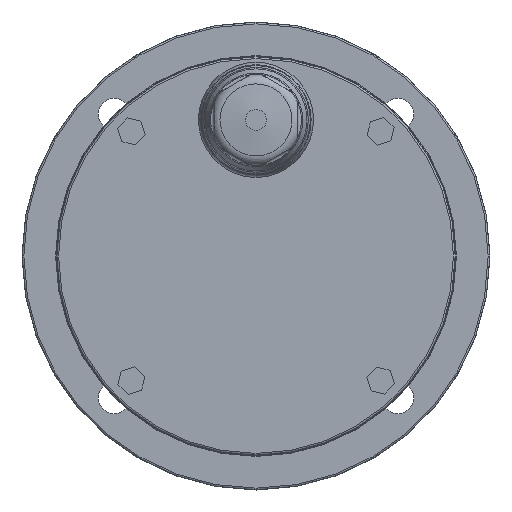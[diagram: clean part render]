
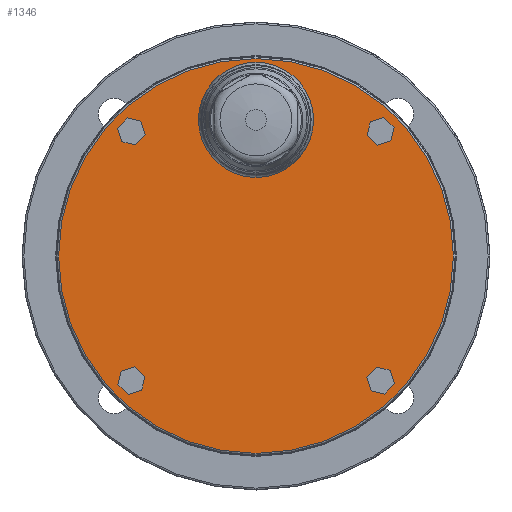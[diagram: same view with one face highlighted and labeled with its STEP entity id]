
A CAD part, front view. The second image highlights one B-rep face of the part: STEP entity #1346.
In plain terms, the highlighted planar face has unit normal (0, -1, 0).
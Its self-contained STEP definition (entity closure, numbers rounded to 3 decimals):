
#151=CARTESIAN_POINT('',(10.0,41.059,39.0));
#152=VERTEX_POINT('',#151);
#153=CARTESIAN_POINT('',(0.0,41.059,39.0));
#154=DIRECTION('',(0.0,1.0,0.0));
#155=DIRECTION('',(1.0,0.0,0.0));
#156=AXIS2_PLACEMENT_3D('',#153,#154,#155);
#157=CIRCLE('',#156,10.0);
#158=EDGE_CURVE('',#152,#152,#157,.T.);
#198=CARTESIAN_POINT('',(36.91,41.059,-39.568));
#199=VERTEX_POINT('',#198);
#206=CARTESIAN_POINT('',(39.651,41.059,-36.598));
#207=VERTEX_POINT('',#206);
#208=CARTESIAN_POINT('',(39.651,41.059,-36.598));
#209=DIRECTION('',(-0.678,0.0,-0.735));
#210=VECTOR('',#209,4.041);
#211=LINE('',#208,#210);
#212=EDGE_CURVE('',#207,#199,#211,.T.);
#236=CARTESIAN_POINT('',(32.968,41.059,-38.679));
#237=VERTEX_POINT('',#236);
#244=CARTESIAN_POINT('',(36.91,41.059,-39.568));
#245=DIRECTION('',(-0.976,0.0,0.22));
#246=VECTOR('',#245,4.041);
#247=LINE('',#244,#246);
#248=EDGE_CURVE('',#199,#237,#247,.T.);
#267=CARTESIAN_POINT('',(31.766,41.059,-34.82));
#268=VERTEX_POINT('',#267);
#275=CARTESIAN_POINT('',(32.968,41.059,-38.679));
#276=DIRECTION('',(-0.297,0.0,0.955));
#277=VECTOR('',#276,4.041);
#278=LINE('',#275,#277);
#279=EDGE_CURVE('',#237,#268,#278,.T.);
#298=CARTESIAN_POINT('',(34.508,41.059,-31.85));
#299=VERTEX_POINT('',#298);
#306=CARTESIAN_POINT('',(31.766,41.059,-34.82));
#307=DIRECTION('',(0.678,0.0,0.735));
#308=VECTOR('',#307,4.041);
#309=LINE('',#306,#308);
#310=EDGE_CURVE('',#268,#299,#309,.T.);
#329=CARTESIAN_POINT('',(38.45,41.059,-32.739));
#330=VERTEX_POINT('',#329);
#337=CARTESIAN_POINT('',(34.508,41.059,-31.85));
#338=DIRECTION('',(0.976,0.0,-0.22));
#339=VECTOR('',#338,4.041);
#340=LINE('',#337,#339);
#341=EDGE_CURVE('',#299,#330,#340,.T.);
#359=CARTESIAN_POINT('',(38.45,41.059,-32.739));
#360=DIRECTION('',(0.297,0.0,-0.955));
#361=VECTOR('',#360,4.041);
#362=LINE('',#359,#361);
#363=EDGE_CURVE('',#330,#207,#362,.T.);
#398=CARTESIAN_POINT('',(-39.568,41.059,-36.91));
#399=VERTEX_POINT('',#398);
#406=CARTESIAN_POINT('',(-36.598,41.059,-39.651));
#407=VERTEX_POINT('',#406);
#408=CARTESIAN_POINT('',(-36.598,41.059,-39.651));
#409=DIRECTION('',(-0.735,0.0,0.678));
#410=VECTOR('',#409,4.041);
#411=LINE('',#408,#410);
#412=EDGE_CURVE('',#407,#399,#411,.T.);
#436=CARTESIAN_POINT('',(-38.679,41.059,-32.968));
#437=VERTEX_POINT('',#436);
#444=CARTESIAN_POINT('',(-39.568,41.059,-36.91));
#445=DIRECTION('',(0.22,0.0,0.976));
#446=VECTOR('',#445,4.041);
#447=LINE('',#444,#446);
#448=EDGE_CURVE('',#399,#437,#447,.T.);
#467=CARTESIAN_POINT('',(-34.82,41.059,-31.766));
#468=VERTEX_POINT('',#467);
#475=CARTESIAN_POINT('',(-38.679,41.059,-32.968));
#476=DIRECTION('',(0.955,0.0,0.297));
#477=VECTOR('',#476,4.041);
#478=LINE('',#475,#477);
#479=EDGE_CURVE('',#437,#468,#478,.T.);
#498=CARTESIAN_POINT('',(-31.85,41.059,-34.508));
#499=VERTEX_POINT('',#498);
#506=CARTESIAN_POINT('',(-34.82,41.059,-31.766));
#507=DIRECTION('',(0.735,0.0,-0.678));
#508=VECTOR('',#507,4.041);
#509=LINE('',#506,#508);
#510=EDGE_CURVE('',#468,#499,#509,.T.);
#529=CARTESIAN_POINT('',(-32.739,41.059,-38.45));
#530=VERTEX_POINT('',#529);
#537=CARTESIAN_POINT('',(-31.85,41.059,-34.508));
#538=DIRECTION('',(-0.22,0.0,-0.976));
#539=VECTOR('',#538,4.041);
#540=LINE('',#537,#539);
#541=EDGE_CURVE('',#499,#530,#540,.T.);
#559=CARTESIAN_POINT('',(-32.739,41.059,-38.45));
#560=DIRECTION('',(-0.955,0.0,-0.297));
#561=VECTOR('',#560,4.041);
#562=LINE('',#559,#561);
#563=EDGE_CURVE('',#530,#407,#562,.T.);
#598=CARTESIAN_POINT('',(-36.91,41.059,39.568));
#599=VERTEX_POINT('',#598);
#606=CARTESIAN_POINT('',(-39.651,41.059,36.598));
#607=VERTEX_POINT('',#606);
#608=CARTESIAN_POINT('',(-39.651,41.059,36.598));
#609=DIRECTION('',(0.678,0.0,0.735));
#610=VECTOR('',#609,4.041);
#611=LINE('',#608,#610);
#612=EDGE_CURVE('',#607,#599,#611,.T.);
#636=CARTESIAN_POINT('',(-32.968,41.059,38.679));
#637=VERTEX_POINT('',#636);
#644=CARTESIAN_POINT('',(-36.91,41.059,39.568));
#645=DIRECTION('',(0.976,0.0,-0.22));
#646=VECTOR('',#645,4.041);
#647=LINE('',#644,#646);
#648=EDGE_CURVE('',#599,#637,#647,.T.);
#667=CARTESIAN_POINT('',(-31.766,41.059,34.82));
#668=VERTEX_POINT('',#667);
#675=CARTESIAN_POINT('',(-32.968,41.059,38.679));
#676=DIRECTION('',(0.297,0.0,-0.955));
#677=VECTOR('',#676,4.041);
#678=LINE('',#675,#677);
#679=EDGE_CURVE('',#637,#668,#678,.T.);
#698=CARTESIAN_POINT('',(-34.508,41.059,31.85));
#699=VERTEX_POINT('',#698);
#706=CARTESIAN_POINT('',(-31.766,41.059,34.82));
#707=DIRECTION('',(-0.678,0.0,-0.735));
#708=VECTOR('',#707,4.041);
#709=LINE('',#706,#708);
#710=EDGE_CURVE('',#668,#699,#709,.T.);
#729=CARTESIAN_POINT('',(-38.45,41.059,32.739));
#730=VERTEX_POINT('',#729);
#737=CARTESIAN_POINT('',(-34.508,41.059,31.85));
#738=DIRECTION('',(-0.976,0.0,0.22));
#739=VECTOR('',#738,4.041);
#740=LINE('',#737,#739);
#741=EDGE_CURVE('',#699,#730,#740,.T.);
#759=CARTESIAN_POINT('',(-38.45,41.059,32.739));
#760=DIRECTION('',(-0.297,0.0,0.955));
#761=VECTOR('',#760,4.041);
#762=LINE('',#759,#761);
#763=EDGE_CURVE('',#730,#607,#762,.T.);
#798=CARTESIAN_POINT('',(39.568,41.059,36.91));
#799=VERTEX_POINT('',#798);
#806=CARTESIAN_POINT('',(36.598,41.059,39.651));
#807=VERTEX_POINT('',#806);
#808=CARTESIAN_POINT('',(36.598,41.059,39.651));
#809=DIRECTION('',(0.735,0.0,-0.678));
#810=VECTOR('',#809,4.041);
#811=LINE('',#808,#810);
#812=EDGE_CURVE('',#807,#799,#811,.T.);
#836=CARTESIAN_POINT('',(38.679,41.059,32.968));
#837=VERTEX_POINT('',#836);
#844=CARTESIAN_POINT('',(39.568,41.059,36.91));
#845=DIRECTION('',(-0.22,0.0,-0.976));
#846=VECTOR('',#845,4.041);
#847=LINE('',#844,#846);
#848=EDGE_CURVE('',#799,#837,#847,.T.);
#867=CARTESIAN_POINT('',(34.82,41.059,31.766));
#868=VERTEX_POINT('',#867);
#875=CARTESIAN_POINT('',(38.679,41.059,32.968));
#876=DIRECTION('',(-0.955,0.0,-0.297));
#877=VECTOR('',#876,4.041);
#878=LINE('',#875,#877);
#879=EDGE_CURVE('',#837,#868,#878,.T.);
#898=CARTESIAN_POINT('',(31.85,41.059,34.508));
#899=VERTEX_POINT('',#898);
#906=CARTESIAN_POINT('',(34.82,41.059,31.766));
#907=DIRECTION('',(-0.735,0.0,0.678));
#908=VECTOR('',#907,4.041);
#909=LINE('',#906,#908);
#910=EDGE_CURVE('',#868,#899,#909,.T.);
#929=CARTESIAN_POINT('',(32.739,41.059,38.45));
#930=VERTEX_POINT('',#929);
#937=CARTESIAN_POINT('',(31.85,41.059,34.508));
#938=DIRECTION('',(0.22,0.0,0.976));
#939=VECTOR('',#938,4.041);
#940=LINE('',#937,#939);
#941=EDGE_CURVE('',#899,#930,#940,.T.);
#959=CARTESIAN_POINT('',(32.739,41.059,38.45));
#960=DIRECTION('',(0.955,0.0,0.297));
#961=VECTOR('',#960,4.041);
#962=LINE('',#959,#961);
#963=EDGE_CURVE('',#930,#807,#962,.T.);
#1288=CARTESIAN_POINT('',(56.55,41.059,0.0));
#1289=VERTEX_POINT('',#1288);
#1290=CARTESIAN_POINT('',(0.0,41.059,0.0));
#1291=DIRECTION('',(0.0,-1.0,0.0));
#1292=DIRECTION('',(1.0,0.0,0.0));
#1293=AXIS2_PLACEMENT_3D('',#1290,#1291,#1292);
#1294=CIRCLE('',#1293,56.55);
#1295=EDGE_CURVE('',#1289,#1289,#1294,.T.);
#1303=CARTESIAN_POINT('',(28.275,41.059,0.0));
#1304=DIRECTION('',(0.0,-1.0,0.0));
#1305=DIRECTION('',(0.0,0.0,-1.0));
#1306=AXIS2_PLACEMENT_3D('',#1303,#1304,#1305);
#1307=PLANE('',#1306);
#1308=ORIENTED_EDGE('',*,*,#1295,.T.);
#1309=EDGE_LOOP('',(#1308));
#1310=FACE_OUTER_BOUND('',#1309,.T.);
#1311=ORIENTED_EDGE('',*,*,#158,.T.);
#1312=EDGE_LOOP('',(#1311));
#1313=FACE_BOUND('',#1312,.T.);
#1314=ORIENTED_EDGE('',*,*,#212,.T.);
#1315=ORIENTED_EDGE('',*,*,#248,.T.);
#1316=ORIENTED_EDGE('',*,*,#279,.T.);
#1317=ORIENTED_EDGE('',*,*,#310,.T.);
#1318=ORIENTED_EDGE('',*,*,#341,.T.);
#1319=ORIENTED_EDGE('',*,*,#363,.T.);
#1320=EDGE_LOOP('',(#1314,#1315,#1316,#1317,#1318,#1319));
#1321=FACE_BOUND('',#1320,.T.);
#1322=ORIENTED_EDGE('',*,*,#412,.T.);
#1323=ORIENTED_EDGE('',*,*,#448,.T.);
#1324=ORIENTED_EDGE('',*,*,#479,.T.);
#1325=ORIENTED_EDGE('',*,*,#510,.T.);
#1326=ORIENTED_EDGE('',*,*,#541,.T.);
#1327=ORIENTED_EDGE('',*,*,#563,.T.);
#1328=EDGE_LOOP('',(#1322,#1323,#1324,#1325,#1326,#1327));
#1329=FACE_BOUND('',#1328,.T.);
#1330=ORIENTED_EDGE('',*,*,#612,.T.);
#1331=ORIENTED_EDGE('',*,*,#648,.T.);
#1332=ORIENTED_EDGE('',*,*,#679,.T.);
#1333=ORIENTED_EDGE('',*,*,#710,.T.);
#1334=ORIENTED_EDGE('',*,*,#741,.T.);
#1335=ORIENTED_EDGE('',*,*,#763,.T.);
#1336=EDGE_LOOP('',(#1330,#1331,#1332,#1333,#1334,#1335));
#1337=FACE_BOUND('',#1336,.T.);
#1338=ORIENTED_EDGE('',*,*,#812,.T.);
#1339=ORIENTED_EDGE('',*,*,#848,.T.);
#1340=ORIENTED_EDGE('',*,*,#879,.T.);
#1341=ORIENTED_EDGE('',*,*,#910,.T.);
#1342=ORIENTED_EDGE('',*,*,#941,.T.);
#1343=ORIENTED_EDGE('',*,*,#963,.T.);
#1344=EDGE_LOOP('',(#1338,#1339,#1340,#1341,#1342,#1343));
#1345=FACE_BOUND('',#1344,.T.);
#1346=ADVANCED_FACE('',(#1310,#1313,#1321,#1329,#1337,#1345),#1307,.T.);
